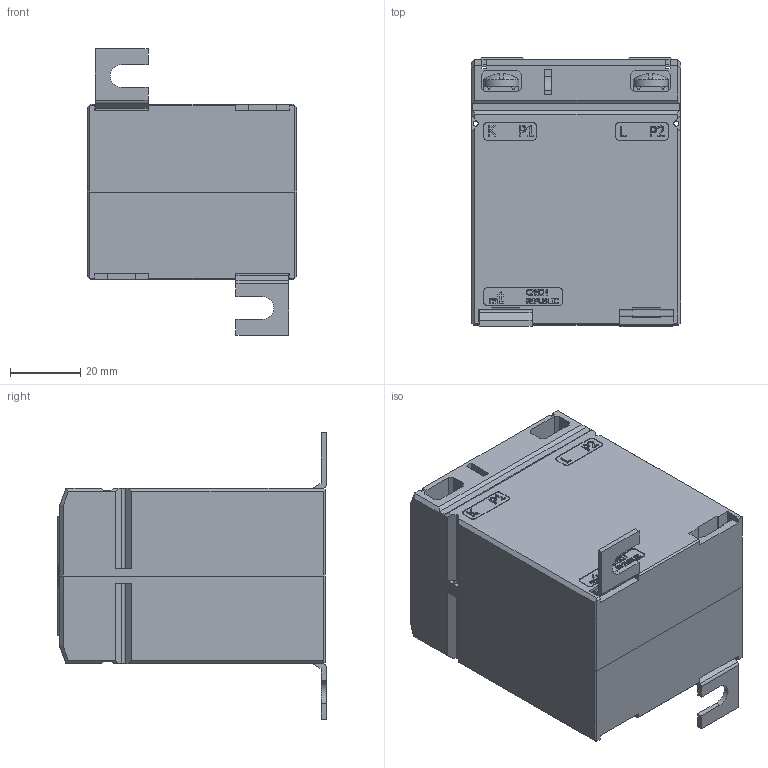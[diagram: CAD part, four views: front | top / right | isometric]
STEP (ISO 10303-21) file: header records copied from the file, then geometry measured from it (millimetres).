
FILE_DESCRIPTION(/* description */ (''),/* implementation_level */ '2;1');
FILE_NAME(/* name */ 'CLB 0.65 test.step',/* time_stamp */ '2024-10-17T18:19:05+02:00',/* author */ (''),/* organization */ (''),/* preprocessor_version */ 'ST-DEVELOPER v20',/* originating_system */ 'Autodesk Translation Framework v13.20.0.188',/* authorisation */ '');
FILE_SCHEMA (('AUTOMOTIVE_DESIGN { 1 0 10303 214 3 1 1 }'));
Length unit declared in the file: millimetre
Products named in the file (16): Current transformer CLB 0.65; Front plastic case CLB 0.65; Back plastic case CLB 0.65; Tape label CLB 0.65; Current transformer CLB 0.91; Current transformer CLB 0.91_1; Secondary terminal 12 CLB; Current transformer CLB 0.91_2; Current transformer CLB 0.91_3; Secondary terminal 12 CLB_1; Secondary terminal cover 37 CLB; Metal mounting foot CLB; Current transformer CLB 0.91_4; Current transformer CLB 0.91_5; Plastic barrier; Screw M5x8
Assembly tree (23 placements, depth 3):
  Current transformer CLB 0.65
    Front plastic case CLB 0.65
    Back plastic case CLB 0.65
    Tape label CLB 0.65
    Current transformer CLB 0.91
      Secondary terminal 12 CLB
    Current transformer CLB 0.91_1
      Secondary terminal 12 CLB
    Current transformer CLB 0.91_2
      Secondary terminal 12 CLB_1
    Current transformer CLB 0.91_3
      Secondary terminal 12 CLB_1
    Secondary terminal cover 37 CLB  x2
    Metal mounting foot CLB  x2
    Current transformer CLB 0.91_4
      Plastic barrier
    Current transformer CLB 0.91_5
      Plastic barrier
    Screw M5x8  x4
Bounding box: 59.5 x 76.4 x 81.5 mm (x, y, z)
Volume: 212714.8 mm3; surface area: 46903.2 mm2
Topology: 17 solids, 17 shells, 1492 faces, 4149 edges, 2746 vertices
Faces by surface type: plane 982, bspline 346, cylinder 144, cone 12, sphere 8
Full cylindrical faces by diameter (mm): 1.5 x4, 2.5 x4, 2.95 x2, 3 x4, 4.134 x4, 5 x4, 10 x4
Entity records: 43161 total; most frequent: CARTESIAN_POINT 11809, ORIENTED_EDGE 7144, DIRECTION 5014, EDGE_CURVE 3572, LINE 2660, VECTOR 2660, VERTEX_POINT 2370, EDGE_LOOP 1372
